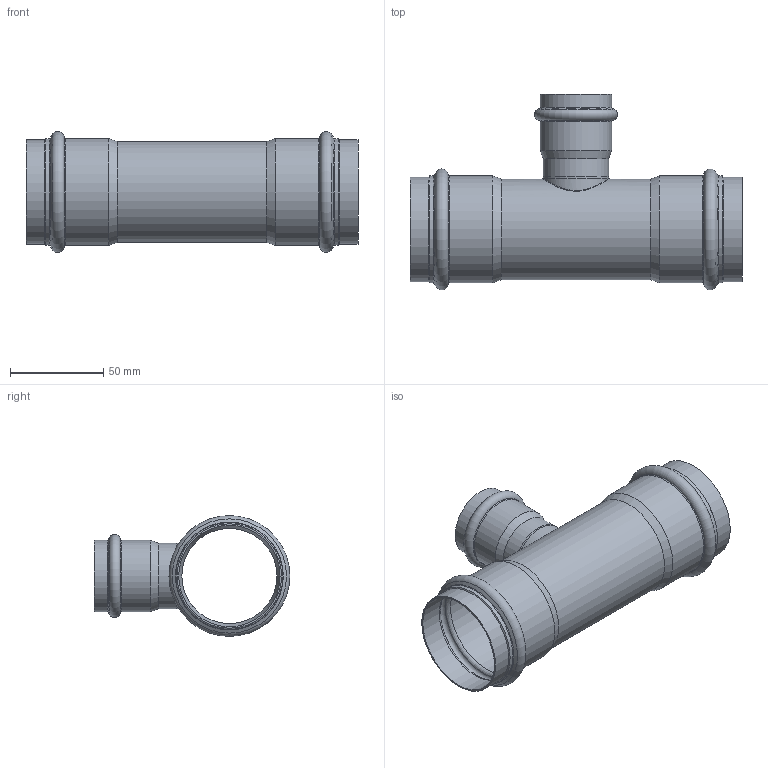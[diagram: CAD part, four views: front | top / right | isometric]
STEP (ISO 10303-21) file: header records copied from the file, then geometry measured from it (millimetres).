
FILE_DESCRIPTION((''),'2;1');
FILE_NAME('G:\Technics\CAD\Bauteile\054\69130543554(1).stp','2008-03-05T15:18:12',('herberg'),(''),'Autodesk Inventor 2008','Autodesk Inventor 2008','');
FILE_SCHEMA(('AUTOMOTIVE_DESIGN { 1 0 10303 214 1 1 1 1 }'));
Length unit declared in the file: millimetre
Products named in the file (3): 69130543554(1); 691305435LM(1); 6924335HM(1)
Assembly tree (2 placements, depth 2):
  69130543554(1)
    691305435LM(1)
    6924335HM(1)
Bounding box: 178 x 104.9 x 64.8 mm (x, y, z)
Volume: 53258.7 mm3; surface area: 75215 mm2
Topology: 2 solids, 2 shells, 59 faces, 123 edges, 68 vertices
Faces by surface type: cylinder 20, cone 14, bspline 13, torus 7, plane 5
Full cylindrical faces by diameter (mm): 32 x2, 35 x2, 35.25 x2, 38.25 x2, 51 x1, 54 x1, 54.35 x4, 55.95 x2, 57.35 x4
Entity records: 2936 total; most frequent: CARTESIAN_POINT 1887, DIRECTION 216, ORIENTED_EDGE 124, EDGE_LOOP 118, AXIS2_PLACEMENT_3D 108, EDGE_CURVE 62, VERTEX_POINT 60, FACE_OUTER_BOUND 59
